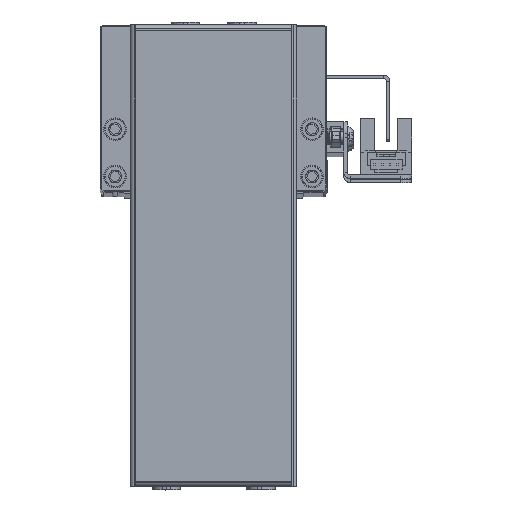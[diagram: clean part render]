
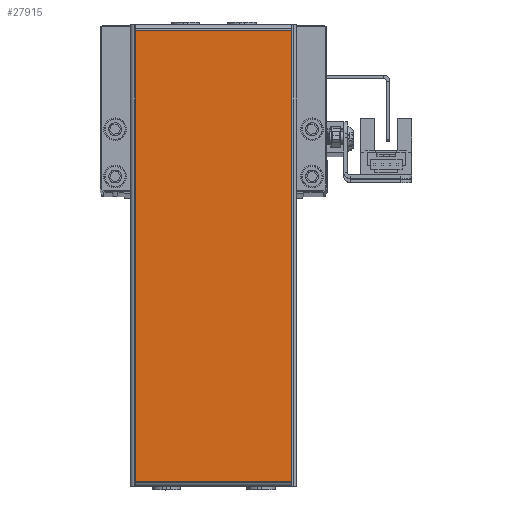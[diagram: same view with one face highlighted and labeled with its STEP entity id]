
A CAD part, top view. The second image highlights one B-rep face of the part: STEP entity #27915.
In plain terms, the highlighted planar face has unit normal (0, 0, 1) as drawn and (0, 0, -1) by its records, which use the part's own axes.
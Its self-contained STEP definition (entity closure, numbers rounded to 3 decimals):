
#3818 = DIRECTION ( 'NONE',  ( 1., 0., 0. ) ) ;
#9372 = LINE ( 'NONE', #22096, #23523 ) ;
#9447 = ORIENTED_EDGE ( 'NONE', *, *, #21538, .T. ) ;
#9917 = CARTESIAN_POINT ( 'NONE',  ( 1.5, 1.3, -1. ) ) ;
#11623 = EDGE_CURVE ( 'NONE', #15088, #27713, #25802, .T. ) ;
#13056 = CARTESIAN_POINT ( 'NONE',  ( 1.5, 42.7, -1. ) ) ;
#14488 = LINE ( 'NONE', #9917, #58471 ) ;
#15088 = VERTEX_POINT ( 'NONE', #22393 ) ;
#17174 = VECTOR ( 'NONE', #20614, 1000. ) ;
#20614 = DIRECTION ( 'NONE',  ( -1., 0., 0. ) ) ;
#21538 = EDGE_CURVE ( 'NONE', #27713, #50514, #14488, .T. ) ;
#22096 = CARTESIAN_POINT ( 'NONE',  ( 120.5, 42.7, -1. ) ) ;
#22393 = CARTESIAN_POINT ( 'NONE',  ( 120.5, 1.3, -1. ) ) ;
#22549 = DIRECTION ( 'NONE',  ( 0., 0., -1. ) ) ;
#23523 = VECTOR ( 'NONE', #42240, 1000. ) ;
#25802 = LINE ( 'NONE', #60134, #17174 ) ;
#27150 = PLANE ( 'NONE',  #61699 ) ;
#27713 = VERTEX_POINT ( 'NONE', #65151 ) ;
#27915 = ADVANCED_FACE ( 'NONE', ( #32301 ), #27150, .T. ) ;
#28890 = ORIENTED_EDGE ( 'NONE', *, *, #11623, .T. ) ;
#29372 = EDGE_CURVE ( 'NONE', #47522, #15088, #9372, .T. ) ;
#29591 = EDGE_LOOP ( 'NONE', ( #51652, #41856, #28890, #9447 ) ) ;
#32301 = FACE_OUTER_BOUND ( 'NONE', #29591, .T. ) ;
#34077 = EDGE_CURVE ( 'NONE', #50514, #47522, #48779, .T. ) ;
#35481 = VECTOR ( 'NONE', #3818, 1000. ) ;
#41856 = ORIENTED_EDGE ( 'NONE', *, *, #29372, .T. ) ;
#42240 = DIRECTION ( 'NONE',  ( 0., -1., 0. ) ) ;
#47522 = VERTEX_POINT ( 'NONE', #49682 ) ;
#48608 = CARTESIAN_POINT ( 'NONE',  ( 0., 42.7, -1. ) ) ;
#48779 = LINE ( 'NONE', #48608, #35481 ) ;
#49682 = CARTESIAN_POINT ( 'NONE',  ( 120.5, 42.7, -1. ) ) ;
#49872 = DIRECTION ( 'NONE',  ( 0., 1., 0. ) ) ;
#50514 = VERTEX_POINT ( 'NONE', #13056 ) ;
#51652 = ORIENTED_EDGE ( 'NONE', *, *, #34077, .T. ) ;
#52153 = DIRECTION ( 'NONE',  ( -1., 0., 0. ) ) ;
#58471 = VECTOR ( 'NONE', #49872, 1000. ) ;
#60134 = CARTESIAN_POINT ( 'NONE',  ( 122., 1.3, -1. ) ) ;
#61699 = AXIS2_PLACEMENT_3D ( 'NONE', #61817, #22549, #52153 ) ;
#61817 = CARTESIAN_POINT ( 'NONE',  ( 0., 0., -1. ) ) ;
#65151 = CARTESIAN_POINT ( 'NONE',  ( 1.5, 1.3, -1. ) ) ;
